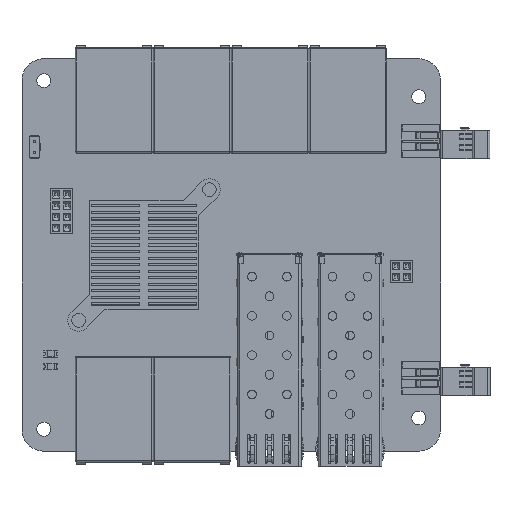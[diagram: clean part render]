
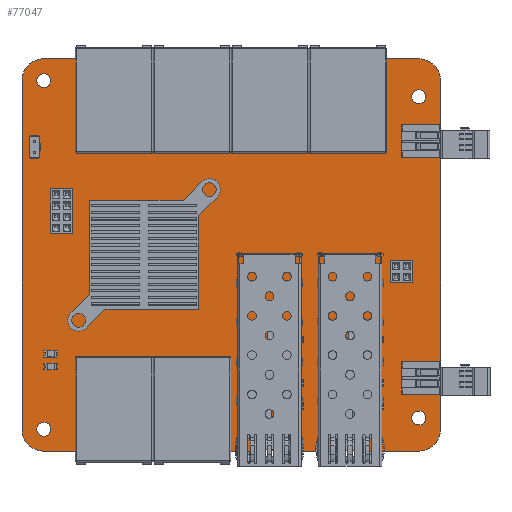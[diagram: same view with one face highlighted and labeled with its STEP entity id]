
A CAD part, top view. The second image highlights one B-rep face of the part: STEP entity #77047.
In plain terms, the highlighted planar face has unit normal (0, 0, 1).
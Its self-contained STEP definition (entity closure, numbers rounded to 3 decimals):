
#3928=FACE_BOUND('',#11566,.T.);
#3929=FACE_BOUND('',#11567,.T.);
#3930=FACE_BOUND('',#11568,.T.);
#3931=FACE_BOUND('',#11569,.T.);
#4563=CIRCLE('',#81159,1.);
#4565=CIRCLE('',#81162,1.);
#4566=CIRCLE('',#81163,1.);
#4567=CIRCLE('',#81164,1.);
#4568=CIRCLE('',#81165,1.);
#4569=CIRCLE('',#81166,1.);
#4570=CIRCLE('',#81167,1.);
#4571=CIRCLE('',#81168,1.);
#4572=CIRCLE('',#81169,5.);
#4573=CIRCLE('',#81170,5.);
#4574=CIRCLE('',#81171,5.);
#4575=CIRCLE('',#81172,5.);
#4576=CIRCLE('',#81173,1.6);
#4577=CIRCLE('',#81174,1.6);
#4578=CIRCLE('',#81175,1.6);
#4579=CIRCLE('',#81176,1.6);
#7570=FACE_OUTER_BOUND('',#11565,.T.);
#11565=EDGE_LOOP('',(#52846,#52847,#52848,#52849,#52850,#52851,#52852,#52853,
#52854,#52855,#52856,#52857,#52858,#52859,#52860,#52861,#52862,#52863,#52864,
#52865,#52866,#52867,#52868,#52869));
#11566=EDGE_LOOP('',(#52870));
#11567=EDGE_LOOP('',(#52871));
#11568=EDGE_LOOP('',(#52872));
#11569=EDGE_LOOP('',(#52873));
#16232=LINE('',#108654,#25229);
#16233=LINE('',#108658,#25230);
#16234=LINE('',#108662,#25231);
#16235=LINE('',#108666,#25232);
#16236=LINE('',#108670,#25233);
#16237=LINE('',#108674,#25234);
#16238=LINE('',#108678,#25235);
#16239=LINE('',#108682,#25236);
#16240=LINE('',#108686,#25237);
#16241=LINE('',#108690,#25238);
#16242=LINE('',#108694,#25239);
#16243=LINE('',#108697,#25240);
#25229=VECTOR('',#87694,10.);
#25230=VECTOR('',#87697,10.);
#25231=VECTOR('',#87700,10.);
#25232=VECTOR('',#87703,10.);
#25233=VECTOR('',#87706,10.);
#25234=VECTOR('',#87709,10.);
#25235=VECTOR('',#87712,10.);
#25236=VECTOR('',#87715,10.);
#25237=VECTOR('',#87718,10.);
#25238=VECTOR('',#87721,10.);
#25239=VECTOR('',#87724,10.);
#25240=VECTOR('',#87727,10.);
#34173=VERTEX_POINT('',#108644);
#34174=VERTEX_POINT('',#108645);
#34177=VERTEX_POINT('',#108653);
#34178=VERTEX_POINT('',#108655);
#34179=VERTEX_POINT('',#108657);
#34180=VERTEX_POINT('',#108659);
#34181=VERTEX_POINT('',#108661);
#34182=VERTEX_POINT('',#108663);
#34183=VERTEX_POINT('',#108665);
#34184=VERTEX_POINT('',#108667);
#34185=VERTEX_POINT('',#108669);
#34186=VERTEX_POINT('',#108671);
#34187=VERTEX_POINT('',#108673);
#34188=VERTEX_POINT('',#108675);
#34189=VERTEX_POINT('',#108677);
#34190=VERTEX_POINT('',#108679);
#34191=VERTEX_POINT('',#108681);
#34192=VERTEX_POINT('',#108683);
#34193=VERTEX_POINT('',#108685);
#34194=VERTEX_POINT('',#108687);
#34195=VERTEX_POINT('',#108689);
#34196=VERTEX_POINT('',#108691);
#34197=VERTEX_POINT('',#108693);
#34198=VERTEX_POINT('',#108695);
#34199=VERTEX_POINT('',#108698);
#34200=VERTEX_POINT('',#108700);
#34201=VERTEX_POINT('',#108702);
#34202=VERTEX_POINT('',#108704);
#41458=EDGE_CURVE('',#34173,#34174,#4563,.T.);
#41462=EDGE_CURVE('',#34173,#34177,#16232,.T.);
#41463=EDGE_CURVE('',#34178,#34177,#4565,.T.);
#41464=EDGE_CURVE('',#34178,#34179,#16233,.T.);
#41465=EDGE_CURVE('',#34180,#34179,#4566,.T.);
#41466=EDGE_CURVE('',#34180,#34181,#16234,.T.);
#41467=EDGE_CURVE('',#34182,#34181,#4567,.T.);
#41468=EDGE_CURVE('',#34183,#34182,#16235,.T.);
#41469=EDGE_CURVE('',#34184,#34183,#4568,.T.);
#41470=EDGE_CURVE('',#34184,#34185,#16236,.T.);
#41471=EDGE_CURVE('',#34186,#34185,#4569,.T.);
#41472=EDGE_CURVE('',#34186,#34187,#16237,.T.);
#41473=EDGE_CURVE('',#34188,#34187,#4570,.T.);
#41474=EDGE_CURVE('',#34188,#34189,#16238,.T.);
#41475=EDGE_CURVE('',#34190,#34189,#4571,.T.);
#41476=EDGE_CURVE('',#34191,#34190,#16239,.T.);
#41477=EDGE_CURVE('',#34192,#34191,#4572,.T.);
#41478=EDGE_CURVE('',#34193,#34192,#16240,.T.);
#41479=EDGE_CURVE('',#34194,#34193,#4573,.T.);
#41480=EDGE_CURVE('',#34195,#34194,#16241,.T.);
#41481=EDGE_CURVE('',#34196,#34195,#4574,.T.);
#41482=EDGE_CURVE('',#34197,#34196,#16242,.T.);
#41483=EDGE_CURVE('',#34198,#34197,#4575,.T.);
#41484=EDGE_CURVE('',#34174,#34198,#16243,.T.);
#41485=EDGE_CURVE('',#34199,#34199,#4576,.T.);
#41486=EDGE_CURVE('',#34200,#34200,#4577,.T.);
#41487=EDGE_CURVE('',#34201,#34201,#4578,.T.);
#41488=EDGE_CURVE('',#34202,#34202,#4579,.T.);
#52846=ORIENTED_EDGE('',*,*,#41458,.F.);
#52847=ORIENTED_EDGE('',*,*,#41462,.T.);
#52848=ORIENTED_EDGE('',*,*,#41463,.F.);
#52849=ORIENTED_EDGE('',*,*,#41464,.T.);
#52850=ORIENTED_EDGE('',*,*,#41465,.F.);
#52851=ORIENTED_EDGE('',*,*,#41466,.T.);
#52852=ORIENTED_EDGE('',*,*,#41467,.F.);
#52853=ORIENTED_EDGE('',*,*,#41468,.F.);
#52854=ORIENTED_EDGE('',*,*,#41469,.F.);
#52855=ORIENTED_EDGE('',*,*,#41470,.T.);
#52856=ORIENTED_EDGE('',*,*,#41471,.F.);
#52857=ORIENTED_EDGE('',*,*,#41472,.T.);
#52858=ORIENTED_EDGE('',*,*,#41473,.F.);
#52859=ORIENTED_EDGE('',*,*,#41474,.T.);
#52860=ORIENTED_EDGE('',*,*,#41475,.F.);
#52861=ORIENTED_EDGE('',*,*,#41476,.F.);
#52862=ORIENTED_EDGE('',*,*,#41477,.F.);
#52863=ORIENTED_EDGE('',*,*,#41478,.F.);
#52864=ORIENTED_EDGE('',*,*,#41479,.F.);
#52865=ORIENTED_EDGE('',*,*,#41480,.F.);
#52866=ORIENTED_EDGE('',*,*,#41481,.F.);
#52867=ORIENTED_EDGE('',*,*,#41482,.F.);
#52868=ORIENTED_EDGE('',*,*,#41483,.F.);
#52869=ORIENTED_EDGE('',*,*,#41484,.F.);
#52870=ORIENTED_EDGE('',*,*,#41485,.T.);
#52871=ORIENTED_EDGE('',*,*,#41486,.T.);
#52872=ORIENTED_EDGE('',*,*,#41487,.T.);
#52873=ORIENTED_EDGE('',*,*,#41488,.T.);
#74074=PLANE('',#81161);
#77047=ADVANCED_FACE('',(#7570,#3928,#3929,#3930,#3931),#74074,.T.);
#81159=AXIS2_PLACEMENT_3D('',#108646,#87686,#87687);
#81161=AXIS2_PLACEMENT_3D('',#108652,#87692,#87693);
#81162=AXIS2_PLACEMENT_3D('',#108656,#87695,#87696);
#81163=AXIS2_PLACEMENT_3D('',#108660,#87698,#87699);
#81164=AXIS2_PLACEMENT_3D('',#108664,#87701,#87702);
#81165=AXIS2_PLACEMENT_3D('',#108668,#87704,#87705);
#81166=AXIS2_PLACEMENT_3D('',#108672,#87707,#87708);
#81167=AXIS2_PLACEMENT_3D('',#108676,#87710,#87711);
#81168=AXIS2_PLACEMENT_3D('',#108680,#87713,#87714);
#81169=AXIS2_PLACEMENT_3D('',#108684,#87716,#87717);
#81170=AXIS2_PLACEMENT_3D('',#108688,#87719,#87720);
#81171=AXIS2_PLACEMENT_3D('',#108692,#87722,#87723);
#81172=AXIS2_PLACEMENT_3D('',#108696,#87725,#87726);
#81173=AXIS2_PLACEMENT_3D('',#108699,#87728,#87729);
#81174=AXIS2_PLACEMENT_3D('',#108701,#87730,#87731);
#81175=AXIS2_PLACEMENT_3D('',#108703,#87732,#87733);
#81176=AXIS2_PLACEMENT_3D('',#108705,#87734,#87735);
#87686=DIRECTION('center_axis',(0.,0.,-1.));
#87687=DIRECTION('ref_axis',(0.707,-0.707,0.));
#87692=DIRECTION('center_axis',(0.,0.,1.));
#87693=DIRECTION('ref_axis',(1.,0.,0.));
#87694=DIRECTION('',(0.,1.,0.));
#87695=DIRECTION('center_axis',(0.,0.,1.));
#87696=DIRECTION('ref_axis',(-0.707,0.707,0.));
#87697=DIRECTION('',(1.,0.,0.));
#87698=DIRECTION('center_axis',(0.,0.,1.));
#87699=DIRECTION('ref_axis',(0.707,0.707,0.));
#87700=DIRECTION('',(0.,-1.,0.));
#87701=DIRECTION('center_axis',(0.,0.,-1.));
#87702=DIRECTION('ref_axis',(-0.707,-0.707,0.));
#87703=DIRECTION('',(-1.,0.,0.));
#87704=DIRECTION('center_axis',(0.,0.,-1.));
#87705=DIRECTION('ref_axis',(0.707,-0.707,0.));
#87706=DIRECTION('',(0.,1.,0.));
#87707=DIRECTION('center_axis',(0.,0.,1.));
#87708=DIRECTION('ref_axis',(-0.707,0.707,0.));
#87709=DIRECTION('',(1.,0.,0.));
#87710=DIRECTION('center_axis',(0.,0.,1.));
#87711=DIRECTION('ref_axis',(0.707,0.707,0.));
#87712=DIRECTION('',(0.,-1.,0.));
#87713=DIRECTION('center_axis',(0.,0.,-1.));
#87714=DIRECTION('ref_axis',(-0.707,-0.707,0.));
#87715=DIRECTION('',(-1.,0.,0.));
#87716=DIRECTION('center_axis',(0.,0.,-1.));
#87717=DIRECTION('ref_axis',(0.707,-0.707,0.));
#87718=DIRECTION('',(0.,-1.,0.));
#87719=DIRECTION('center_axis',(0.,0.,-1.));
#87720=DIRECTION('ref_axis',(0.707,0.707,0.));
#87721=DIRECTION('',(1.,0.,0.));
#87722=DIRECTION('center_axis',(0.,0.,-1.));
#87723=DIRECTION('ref_axis',(-0.707,0.707,0.));
#87724=DIRECTION('',(0.,1.,0.));
#87725=DIRECTION('center_axis',(0.,0.,-1.));
#87726=DIRECTION('ref_axis',(-0.707,-0.707,0.));
#87727=DIRECTION('',(-1.,0.,0.));
#87728=DIRECTION('center_axis',(0.,0.,-1.));
#87729=DIRECTION('ref_axis',(1.,0.,0.));
#87730=DIRECTION('center_axis',(0.,0.,-1.));
#87731=DIRECTION('ref_axis',(1.,0.,0.));
#87732=DIRECTION('center_axis',(0.,0.,-1.));
#87733=DIRECTION('ref_axis',(1.,0.,0.));
#87734=DIRECTION('center_axis',(0.,0.,-1.));
#87735=DIRECTION('ref_axis',(1.,0.,0.));
#108644=CARTESIAN_POINT('',(53.5,1.,2.));
#108645=CARTESIAN_POINT('',(52.5,0.,2.));
#108646=CARTESIAN_POINT('Origin',(52.5,1.,2.));
#108652=CARTESIAN_POINT('Origin',(48.,45.,2.));
#108653=CARTESIAN_POINT('',(53.5,2.,2.));
#108654=CARTESIAN_POINT('',(53.5,22.5,2.));
#108655=CARTESIAN_POINT('',(54.5,3.,2.));
#108656=CARTESIAN_POINT('Origin',(54.5,2.,2.));
#108657=CARTESIAN_POINT('',(59.5,3.,2.));
#108658=CARTESIAN_POINT('',(50.75,3.,2.));
#108659=CARTESIAN_POINT('',(60.5,2.,2.));
#108660=CARTESIAN_POINT('Origin',(59.5,2.,2.));
#108661=CARTESIAN_POINT('',(60.5,1.,2.));
#108662=CARTESIAN_POINT('',(60.5,24.,2.));
#108663=CARTESIAN_POINT('',(61.5,0.,2.));
#108664=CARTESIAN_POINT('Origin',(61.5,1.,2.));
#108665=CARTESIAN_POINT('',(70.5,0.,2.));
#108666=CARTESIAN_POINT('',(0.,0.,2.));
#108667=CARTESIAN_POINT('',(71.5,1.,2.));
#108668=CARTESIAN_POINT('Origin',(70.5,1.,2.));
#108669=CARTESIAN_POINT('',(71.5,2.,2.));
#108670=CARTESIAN_POINT('',(71.5,22.5,2.));
#108671=CARTESIAN_POINT('',(72.5,3.,2.));
#108672=CARTESIAN_POINT('Origin',(72.5,2.,2.));
#108673=CARTESIAN_POINT('',(77.5,3.,2.));
#108674=CARTESIAN_POINT('',(59.75,3.,2.));
#108675=CARTESIAN_POINT('',(78.5,2.,2.));
#108676=CARTESIAN_POINT('Origin',(77.5,2.,2.));
#108677=CARTESIAN_POINT('',(78.5,1.,2.));
#108678=CARTESIAN_POINT('',(78.5,24.,2.));
#108679=CARTESIAN_POINT('',(79.5,0.,2.));
#108680=CARTESIAN_POINT('Origin',(79.5,1.,2.));
#108681=CARTESIAN_POINT('',(91.,0.,2.));
#108682=CARTESIAN_POINT('',(0.,0.,2.));
#108683=CARTESIAN_POINT('',(96.,5.,2.));
#108684=CARTESIAN_POINT('Origin',(91.,5.,2.));
#108685=CARTESIAN_POINT('',(96.,85.,2.));
#108686=CARTESIAN_POINT('',(96.,0.,2.));
#108687=CARTESIAN_POINT('',(91.,90.,2.));
#108688=CARTESIAN_POINT('Origin',(91.,85.,2.));
#108689=CARTESIAN_POINT('',(5.,90.,2.));
#108690=CARTESIAN_POINT('',(96.,90.,2.));
#108691=CARTESIAN_POINT('',(0.,85.,2.));
#108692=CARTESIAN_POINT('Origin',(5.,85.,2.));
#108693=CARTESIAN_POINT('',(0.,5.,2.));
#108694=CARTESIAN_POINT('',(0.,90.,2.));
#108695=CARTESIAN_POINT('',(5.,0.,2.));
#108696=CARTESIAN_POINT('Origin',(5.,5.,2.));
#108697=CARTESIAN_POINT('',(0.,0.,2.));
#108698=CARTESIAN_POINT('',(89.4,7.6,2.));
#108699=CARTESIAN_POINT('Origin',(91.,7.6,2.));
#108700=CARTESIAN_POINT('',(89.4,81.3,2.));
#108701=CARTESIAN_POINT('Origin',(91.,81.3,2.));
#108702=CARTESIAN_POINT('',(3.4,85.,2.));
#108703=CARTESIAN_POINT('Origin',(5.,85.,2.));
#108704=CARTESIAN_POINT('',(3.4,5.,2.));
#108705=CARTESIAN_POINT('Origin',(5.,5.,2.));
